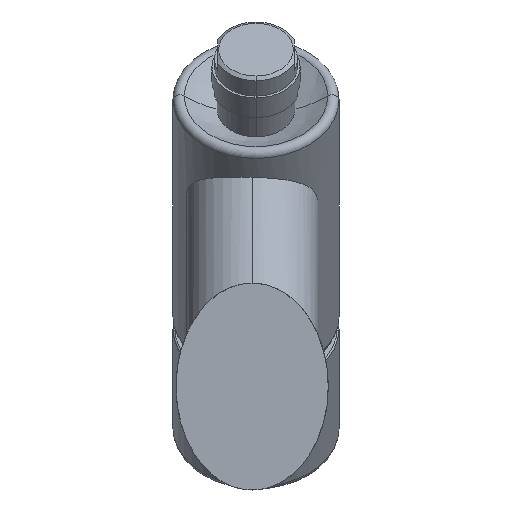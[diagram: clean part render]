
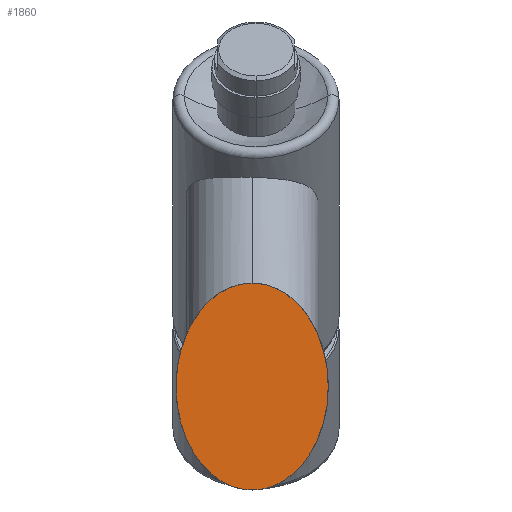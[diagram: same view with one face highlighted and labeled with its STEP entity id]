
A CAD part, front view. The second image highlights one B-rep face of the part: STEP entity #1860.
In plain terms, the highlighted planar face has unit normal (0, -1, 0).
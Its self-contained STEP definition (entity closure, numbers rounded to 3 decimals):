
#34 = AXIS2_PLACEMENT_3D ( 'NONE', #1404, #2032, #46 ) ;
#46 = DIRECTION ( 'NONE',  ( 0., 0., 1. ) ) ;
#103 = CARTESIAN_POINT ( 'NONE',  ( 44., -0.012, 30.158 ) ) ;
#250 = CARTESIAN_POINT ( 'NONE',  ( 0., -0.012, -29.642 ) ) ;
#310 = CARTESIAN_POINT ( 'NONE',  ( 0., -0.012, -29.642 ) ) ;
#344 = FACE_OUTER_BOUND ( 'NONE', #2683, .T. ) ;
#608 = VERTEX_POINT ( 'NONE', #1527 ) ;
#761 = VERTEX_POINT ( 'NONE', #2116 ) ;
#767 = CARTESIAN_POINT ( 'NONE',  ( -44., -0.012, 30.158 ) ) ;
#920 =( BOUNDED_CURVE ( )  B_SPLINE_CURVE ( 3, ( #2438, #103, #1673, #250 ),
 .UNSPECIFIED., .F., .T. ) 
 B_SPLINE_CURVE_WITH_KNOTS ( ( 4, 4 ),
 ( 3.142, 6.283 ),
 .UNSPECIFIED. ) 
 CURVE ( )  GEOMETRIC_REPRESENTATION_ITEM ( )  RATIONAL_B_SPLINE_CURVE ( ( 1., 0.333, 0.333, 1. ) ) 
 REPRESENTATION_ITEM ( '' )  );
#1404 = CARTESIAN_POINT ( 'NONE',  ( 0., -0.012, 0.258 ) ) ;
#1480 = EDGE_CURVE ( 'NONE', #761, #608, #920, .T. ) ;
#1508 =( BOUNDED_CURVE ( )  B_SPLINE_CURVE ( 3, ( #310, #1872, #767, #2333 ),
 .UNSPECIFIED., .F., .F. ) 
 B_SPLINE_CURVE_WITH_KNOTS ( ( 4, 4 ),
 ( 0., 3.142 ),
 .UNSPECIFIED. ) 
 CURVE ( )  GEOMETRIC_REPRESENTATION_ITEM ( )  RATIONAL_B_SPLINE_CURVE ( ( 1., 0.333, 0.333, 1. ) ) 
 REPRESENTATION_ITEM ( '' )  );
#1527 = CARTESIAN_POINT ( 'NONE',  ( 0., -0.012, -29.642 ) ) ;
#1673 = CARTESIAN_POINT ( 'NONE',  ( 44., -0.012, -29.642 ) ) ;
#1730 = ORIENTED_EDGE ( 'NONE', *, *, #1480, .F. ) ;
#1860 = ADVANCED_FACE ( 'NONE', ( #344 ), #2323, .F. ) ;
#1872 = CARTESIAN_POINT ( 'NONE',  ( -44., -0.012, -29.642 ) ) ;
#1971 = ORIENTED_EDGE ( 'NONE', *, *, #2558, .F. ) ;
#2032 = DIRECTION ( 'NONE',  ( 0., 1., 0. ) ) ;
#2116 = CARTESIAN_POINT ( 'NONE',  ( 0., -0.012, 30.158 ) ) ;
#2323 = PLANE ( 'NONE',  #34 ) ;
#2333 = CARTESIAN_POINT ( 'NONE',  ( 0., -0.012, 30.158 ) ) ;
#2438 = CARTESIAN_POINT ( 'NONE',  ( 0., -0.012, 30.158 ) ) ;
#2558 = EDGE_CURVE ( 'NONE', #608, #761, #1508, .T. ) ;
#2683 = EDGE_LOOP ( 'NONE', ( #1971, #1730 ) ) ;
